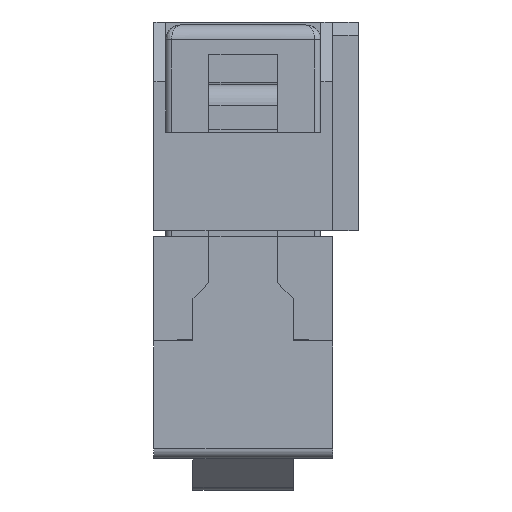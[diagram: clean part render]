
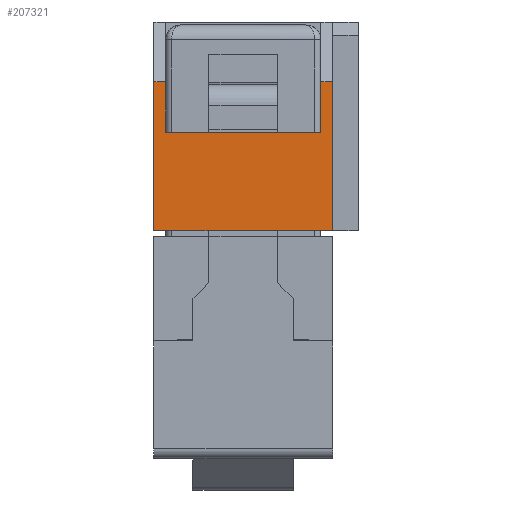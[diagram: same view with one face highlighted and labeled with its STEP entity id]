
A CAD part, left-side view. The second image highlights one B-rep face of the part: STEP entity #207321.
In plain terms, the highlighted planar face has unit normal (-1, 0, 0).
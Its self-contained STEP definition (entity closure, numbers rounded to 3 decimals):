
#195023 = PLANE('',#195024);
#195024 = AXIS2_PLACEMENT_3D('',#195025,#195026,#195027);
#195025 = CARTESIAN_POINT('',(-42.98,-3.,0.));
#195026 = DIRECTION('',(0.,0.,1.));
#195027 = DIRECTION('',(1.,0.,0.));
#198605 = VERTEX_POINT('',#198606);
#198606 = CARTESIAN_POINT('',(-42.98,-3.,0.));
#198620 = PLANE('',#198621);
#198621 = AXIS2_PLACEMENT_3D('',#198622,#198623,#198624);
#198622 = CARTESIAN_POINT('',(-42.98,-3.,7.));
#198623 = DIRECTION('',(0.,1.,0.));
#198624 = DIRECTION('',(-1.,0.,0.));
#198632 = EDGE_CURVE('',#198633,#198605,#198635,.T.);
#198633 = VERTEX_POINT('',#198634);
#198634 = CARTESIAN_POINT('',(-42.98,3.,0.));
#198635 = SURFACE_CURVE('',#198636,(#198640,#198647),.PCURVE_S1.);
#198636 = LINE('',#198637,#198638);
#198637 = CARTESIAN_POINT('',(-42.98,3.,0.));
#198638 = VECTOR('',#198639,1.);
#198639 = DIRECTION('',(0.,-1.,0.));
#198640 = PCURVE('',#195023,#198641);
#198641 = DEFINITIONAL_REPRESENTATION('',(#198642),#198646);
#198642 = LINE('',#198643,#198644);
#198643 = CARTESIAN_POINT('',(0.,6.));
#198644 = VECTOR('',#198645,1.);
#198645 = DIRECTION('',(0.,-1.));
#198646 = ( GEOMETRIC_REPRESENTATION_CONTEXT(2) 
PARAMETRIC_REPRESENTATION_CONTEXT() REPRESENTATION_CONTEXT('2D SPACE',''
  ) );
#198647 = PCURVE('',#198648,#198653);
#198648 = PLANE('',#198649);
#198649 = AXIS2_PLACEMENT_3D('',#198650,#198651,#198652);
#198650 = CARTESIAN_POINT('',(-42.98,3.,7.));
#198651 = DIRECTION('',(1.,0.,0.));
#198652 = DIRECTION('',(0.,0.,-1.));
#198653 = DEFINITIONAL_REPRESENTATION('',(#198654),#198658);
#198654 = LINE('',#198655,#198656);
#198655 = CARTESIAN_POINT('',(7.,0.));
#198656 = VECTOR('',#198657,1.);
#198657 = DIRECTION('',(0.,-1.));
#198658 = ( GEOMETRIC_REPRESENTATION_CONTEXT(2) 
PARAMETRIC_REPRESENTATION_CONTEXT() REPRESENTATION_CONTEXT('2D SPACE',''
  ) );
#198676 = PLANE('',#198677);
#198677 = AXIS2_PLACEMENT_3D('',#198678,#198679,#198680);
#198678 = CARTESIAN_POINT('',(42.98,3.,7.));
#198679 = DIRECTION('',(0.,-1.,0.));
#198680 = DIRECTION('',(1.,0.,0.));
#202332 = PLANE('',#202333);
#202333 = AXIS2_PLACEMENT_3D('',#202334,#202335,#202336);
#202334 = CARTESIAN_POINT('',(-42.58,-2.6,86.517));
#202335 = DIRECTION('',(0.,1.,0.));
#202336 = DIRECTION('',(-1.,0.,0.));
#202405 = PLANE('',#202406);
#202406 = AXIS2_PLACEMENT_3D('',#202407,#202408,#202409);
#202407 = CARTESIAN_POINT('',(-41.18,2.6,86.517));
#202408 = DIRECTION('',(0.,-1.,0.));
#202409 = DIRECTION('',(1.,0.,0.));
#207321 = ADVANCED_FACE('',(#207322),#198648,.F.);
#207322 = FACE_BOUND('',#207323,.T.);
#207323 = EDGE_LOOP('',(#207324,#207354,#207377,#207405,#207428,#207456,
    #207477,#207478));
#207324 = ORIENTED_EDGE('',*,*,#207325,.F.);
#207325 = EDGE_CURVE('',#207326,#207328,#207330,.T.);
#207326 = VERTEX_POINT('',#207327);
#207327 = CARTESIAN_POINT('',(-42.98,-2.6,5.));
#207328 = VERTEX_POINT('',#207329);
#207329 = CARTESIAN_POINT('',(-42.98,-3.,5.));
#207330 = SURFACE_CURVE('',#207331,(#207335,#207342),.PCURVE_S1.);
#207331 = LINE('',#207332,#207333);
#207332 = CARTESIAN_POINT('',(-42.98,3.,5.));
#207333 = VECTOR('',#207334,1.);
#207334 = DIRECTION('',(0.,-1.,0.));
#207335 = PCURVE('',#198648,#207336);
#207336 = DEFINITIONAL_REPRESENTATION('',(#207337),#207341);
#207337 = LINE('',#207338,#207339);
#207338 = CARTESIAN_POINT('',(2.,0.));
#207339 = VECTOR('',#207340,1.);
#207340 = DIRECTION('',(0.,-1.));
#207341 = ( GEOMETRIC_REPRESENTATION_CONTEXT(2) 
PARAMETRIC_REPRESENTATION_CONTEXT() REPRESENTATION_CONTEXT('2D SPACE',''
  ) );
#207342 = PCURVE('',#207343,#207348);
#207343 = PLANE('',#207344);
#207344 = AXIS2_PLACEMENT_3D('',#207345,#207346,#207347);
#207345 = CARTESIAN_POINT('',(-42.98,-86.517,5.));
#207346 = DIRECTION('',(-0.894,0.,0.447));
#207347 = DIRECTION('',(0.447,0.,0.894));
#207348 = DEFINITIONAL_REPRESENTATION('',(#207349),#207353);
#207349 = LINE('',#207350,#207351);
#207350 = CARTESIAN_POINT('',(0.,89.517));
#207351 = VECTOR('',#207352,1.);
#207352 = DIRECTION('',(0.,-1.));
#207353 = ( GEOMETRIC_REPRESENTATION_CONTEXT(2) 
PARAMETRIC_REPRESENTATION_CONTEXT() REPRESENTATION_CONTEXT('2D SPACE',''
  ) );
#207354 = ORIENTED_EDGE('',*,*,#207355,.F.);
#207355 = EDGE_CURVE('',#207356,#207326,#207358,.T.);
#207356 = VERTEX_POINT('',#207357);
#207357 = CARTESIAN_POINT('',(-42.98,-2.6,3.3));
#207358 = SURFACE_CURVE('',#207359,(#207363,#207370),.PCURVE_S1.);
#207359 = LINE('',#207360,#207361);
#207360 = CARTESIAN_POINT('',(-42.98,-2.6,3.3));
#207361 = VECTOR('',#207362,1.);
#207362 = DIRECTION('',(0.,0.,1.));
#207363 = PCURVE('',#198648,#207364);
#207364 = DEFINITIONAL_REPRESENTATION('',(#207365),#207369);
#207365 = LINE('',#207366,#207367);
#207366 = CARTESIAN_POINT('',(3.7,-5.6));
#207367 = VECTOR('',#207368,1.);
#207368 = DIRECTION('',(-1.,0.));
#207369 = ( GEOMETRIC_REPRESENTATION_CONTEXT(2) 
PARAMETRIC_REPRESENTATION_CONTEXT() REPRESENTATION_CONTEXT('2D SPACE',''
  ) );
#207370 = PCURVE('',#202332,#207371);
#207371 = DEFINITIONAL_REPRESENTATION('',(#207372),#207376);
#207372 = LINE('',#207373,#207374);
#207373 = CARTESIAN_POINT('',(0.4,-83.217));
#207374 = VECTOR('',#207375,1.);
#207375 = DIRECTION('',(0.,1.));
#207376 = ( GEOMETRIC_REPRESENTATION_CONTEXT(2) 
PARAMETRIC_REPRESENTATION_CONTEXT() REPRESENTATION_CONTEXT('2D SPACE',''
  ) );
#207377 = ORIENTED_EDGE('',*,*,#207378,.F.);
#207378 = EDGE_CURVE('',#207379,#207356,#207381,.T.);
#207379 = VERTEX_POINT('',#207380);
#207380 = CARTESIAN_POINT('',(-42.98,2.6,3.3));
#207381 = SURFACE_CURVE('',#207382,(#207386,#207393),.PCURVE_S1.);
#207382 = LINE('',#207383,#207384);
#207383 = CARTESIAN_POINT('',(-42.98,2.6,3.3));
#207384 = VECTOR('',#207385,1.);
#207385 = DIRECTION('',(0.,-1.,0.));
#207386 = PCURVE('',#198648,#207387);
#207387 = DEFINITIONAL_REPRESENTATION('',(#207388),#207392);
#207388 = LINE('',#207389,#207390);
#207389 = CARTESIAN_POINT('',(3.7,-0.4));
#207390 = VECTOR('',#207391,1.);
#207391 = DIRECTION('',(0.,-1.));
#207392 = ( GEOMETRIC_REPRESENTATION_CONTEXT(2) 
PARAMETRIC_REPRESENTATION_CONTEXT() REPRESENTATION_CONTEXT('2D SPACE',''
  ) );
#207393 = PCURVE('',#207394,#207399);
#207394 = PLANE('',#207395);
#207395 = AXIS2_PLACEMENT_3D('',#207396,#207397,#207398);
#207396 = CARTESIAN_POINT('',(43.537,2.6,3.3));
#207397 = DIRECTION('',(0.,0.,-1.));
#207398 = DIRECTION('',(-1.,0.,0.));
#207399 = DEFINITIONAL_REPRESENTATION('',(#207400),#207404);
#207400 = LINE('',#207401,#207402);
#207401 = CARTESIAN_POINT('',(86.517,0.));
#207402 = VECTOR('',#207403,1.);
#207403 = DIRECTION('',(0.,-1.));
#207404 = ( GEOMETRIC_REPRESENTATION_CONTEXT(2) 
PARAMETRIC_REPRESENTATION_CONTEXT() REPRESENTATION_CONTEXT('2D SPACE',''
  ) );
#207405 = ORIENTED_EDGE('',*,*,#207406,.F.);
#207406 = EDGE_CURVE('',#207407,#207379,#207409,.T.);
#207407 = VERTEX_POINT('',#207408);
#207408 = CARTESIAN_POINT('',(-42.98,2.6,5.));
#207409 = SURFACE_CURVE('',#207410,(#207414,#207421),.PCURVE_S1.);
#207410 = LINE('',#207411,#207412);
#207411 = CARTESIAN_POINT('',(-42.98,2.6,5.8));
#207412 = VECTOR('',#207413,1.);
#207413 = DIRECTION('',(0.,0.,-1.));
#207414 = PCURVE('',#198648,#207415);
#207415 = DEFINITIONAL_REPRESENTATION('',(#207416),#207420);
#207416 = LINE('',#207417,#207418);
#207417 = CARTESIAN_POINT('',(1.2,-0.4));
#207418 = VECTOR('',#207419,1.);
#207419 = DIRECTION('',(1.,0.));
#207420 = ( GEOMETRIC_REPRESENTATION_CONTEXT(2) 
PARAMETRIC_REPRESENTATION_CONTEXT() REPRESENTATION_CONTEXT('2D SPACE',''
  ) );
#207421 = PCURVE('',#202405,#207422);
#207422 = DEFINITIONAL_REPRESENTATION('',(#207423),#207427);
#207423 = LINE('',#207424,#207425);
#207424 = CARTESIAN_POINT('',(-1.8,-80.717));
#207425 = VECTOR('',#207426,1.);
#207426 = DIRECTION('',(0.,-1.));
#207427 = ( GEOMETRIC_REPRESENTATION_CONTEXT(2) 
PARAMETRIC_REPRESENTATION_CONTEXT() REPRESENTATION_CONTEXT('2D SPACE',''
  ) );
#207428 = ORIENTED_EDGE('',*,*,#207429,.F.);
#207429 = EDGE_CURVE('',#207430,#207407,#207432,.T.);
#207430 = VERTEX_POINT('',#207431);
#207431 = CARTESIAN_POINT('',(-42.98,3.,5.));
#207432 = SURFACE_CURVE('',#207433,(#207437,#207444),.PCURVE_S1.);
#207433 = LINE('',#207434,#207435);
#207434 = CARTESIAN_POINT('',(-42.98,3.,5.));
#207435 = VECTOR('',#207436,1.);
#207436 = DIRECTION('',(0.,-1.,0.));
#207437 = PCURVE('',#198648,#207438);
#207438 = DEFINITIONAL_REPRESENTATION('',(#207439),#207443);
#207439 = LINE('',#207440,#207441);
#207440 = CARTESIAN_POINT('',(2.,0.));
#207441 = VECTOR('',#207442,1.);
#207442 = DIRECTION('',(0.,-1.));
#207443 = ( GEOMETRIC_REPRESENTATION_CONTEXT(2) 
PARAMETRIC_REPRESENTATION_CONTEXT() REPRESENTATION_CONTEXT('2D SPACE',''
  ) );
#207444 = PCURVE('',#207445,#207450);
#207445 = PLANE('',#207446);
#207446 = AXIS2_PLACEMENT_3D('',#207447,#207448,#207449);
#207447 = CARTESIAN_POINT('',(-42.98,-86.517,5.));
#207448 = DIRECTION('',(-0.894,0.,0.447));
#207449 = DIRECTION('',(0.447,0.,0.894));
#207450 = DEFINITIONAL_REPRESENTATION('',(#207451),#207455);
#207451 = LINE('',#207452,#207453);
#207452 = CARTESIAN_POINT('',(0.,89.517));
#207453 = VECTOR('',#207454,1.);
#207454 = DIRECTION('',(0.,-1.));
#207455 = ( GEOMETRIC_REPRESENTATION_CONTEXT(2) 
PARAMETRIC_REPRESENTATION_CONTEXT() REPRESENTATION_CONTEXT('2D SPACE',''
  ) );
#207456 = ORIENTED_EDGE('',*,*,#207457,.T.);
#207457 = EDGE_CURVE('',#207430,#198633,#207458,.T.);
#207458 = SURFACE_CURVE('',#207459,(#207463,#207470),.PCURVE_S1.);
#207459 = LINE('',#207460,#207461);
#207460 = CARTESIAN_POINT('',(-42.98,3.,7.));
#207461 = VECTOR('',#207462,1.);
#207462 = DIRECTION('',(0.,0.,-1.));
#207463 = PCURVE('',#198648,#207464);
#207464 = DEFINITIONAL_REPRESENTATION('',(#207465),#207469);
#207465 = LINE('',#207466,#207467);
#207466 = CARTESIAN_POINT('',(0.,0.));
#207467 = VECTOR('',#207468,1.);
#207468 = DIRECTION('',(1.,0.));
#207469 = ( GEOMETRIC_REPRESENTATION_CONTEXT(2) 
PARAMETRIC_REPRESENTATION_CONTEXT() REPRESENTATION_CONTEXT('2D SPACE',''
  ) );
#207470 = PCURVE('',#198676,#207471);
#207471 = DEFINITIONAL_REPRESENTATION('',(#207472),#207476);
#207472 = LINE('',#207473,#207474);
#207473 = CARTESIAN_POINT('',(-85.96,0.));
#207474 = VECTOR('',#207475,1.);
#207475 = DIRECTION('',(0.,-1.));
#207476 = ( GEOMETRIC_REPRESENTATION_CONTEXT(2) 
PARAMETRIC_REPRESENTATION_CONTEXT() REPRESENTATION_CONTEXT('2D SPACE',''
  ) );
#207477 = ORIENTED_EDGE('',*,*,#198632,.T.);
#207478 = ORIENTED_EDGE('',*,*,#207479,.F.);
#207479 = EDGE_CURVE('',#207328,#198605,#207480,.T.);
#207480 = SURFACE_CURVE('',#207481,(#207485,#207492),.PCURVE_S1.);
#207481 = LINE('',#207482,#207483);
#207482 = CARTESIAN_POINT('',(-42.98,-3.,7.));
#207483 = VECTOR('',#207484,1.);
#207484 = DIRECTION('',(0.,0.,-1.));
#207485 = PCURVE('',#198648,#207486);
#207486 = DEFINITIONAL_REPRESENTATION('',(#207487),#207491);
#207487 = LINE('',#207488,#207489);
#207488 = CARTESIAN_POINT('',(0.,-6.));
#207489 = VECTOR('',#207490,1.);
#207490 = DIRECTION('',(1.,0.));
#207491 = ( GEOMETRIC_REPRESENTATION_CONTEXT(2) 
PARAMETRIC_REPRESENTATION_CONTEXT() REPRESENTATION_CONTEXT('2D SPACE',''
  ) );
#207492 = PCURVE('',#198620,#207493);
#207493 = DEFINITIONAL_REPRESENTATION('',(#207494),#207498);
#207494 = LINE('',#207495,#207496);
#207495 = CARTESIAN_POINT('',(0.,0.));
#207496 = VECTOR('',#207497,1.);
#207497 = DIRECTION('',(-0.,-1.));
#207498 = ( GEOMETRIC_REPRESENTATION_CONTEXT(2) 
PARAMETRIC_REPRESENTATION_CONTEXT() REPRESENTATION_CONTEXT('2D SPACE',''
  ) );
